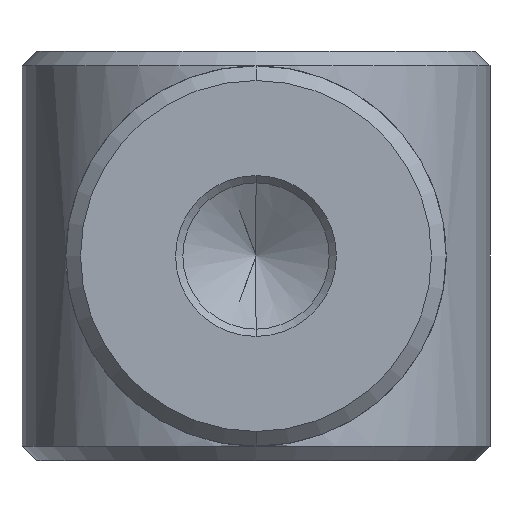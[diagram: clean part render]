
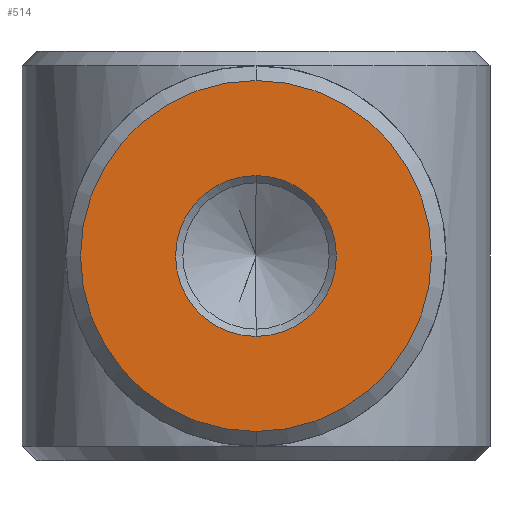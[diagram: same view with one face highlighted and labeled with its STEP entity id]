
A CAD part, front view. The second image highlights one B-rep face of the part: STEP entity #514.
In plain terms, the highlighted planar face has unit normal (0, -1, 0).
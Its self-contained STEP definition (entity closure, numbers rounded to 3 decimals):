
#27 = DIRECTION ( 'NONE',  ( 0., -1., 0. ) ) ;
#58 = ORIENTED_EDGE ( 'NONE', *, *, #613, .T. ) ;
#73 = CARTESIAN_POINT ( 'NONE',  ( 0., 0., 0. ) ) ;
#77 = DIRECTION ( 'NONE',  ( 0., 0., 1. ) ) ;
#78 = VERTEX_POINT ( 'NONE', #372 ) ;
#119 = CARTESIAN_POINT ( 'NONE',  ( 0., 0., 0. ) ) ;
#123 = DIRECTION ( 'NONE',  ( 0., 1., 0. ) ) ;
#127 = CIRCLE ( 'NONE', #546, 2.75 ) ;
#128 = DIRECTION ( 'NONE',  ( 0., -1., 0. ) ) ;
#129 = CIRCLE ( 'NONE', #585, 2.75 ) ;
#139 = DIRECTION ( 'NONE',  ( 0., 0., 1. ) ) ;
#143 = DIRECTION ( 'NONE',  ( 0., 0., -1. ) ) ;
#149 = DIRECTION ( 'NONE',  ( 0., 0., -1. ) ) ;
#176 = CIRCLE ( 'NONE', #564, 6. ) ;
#184 = DIRECTION ( 'NONE',  ( 0., 0., 1. ) ) ;
#240 = CARTESIAN_POINT ( 'NONE',  ( 0., 0., 6. ) ) ;
#261 = CARTESIAN_POINT ( 'NONE',  ( 0., 0., 0. ) ) ;
#294 = CIRCLE ( 'NONE', #607, 6. ) ;
#372 = CARTESIAN_POINT ( 'NONE',  ( 0., 0., -2.75 ) ) ;
#398 = EDGE_LOOP ( 'NONE', ( #58, #666 ) ) ;
#438 = DIRECTION ( 'NONE',  ( 0., -1., 0. ) ) ;
#465 = ORIENTED_EDGE ( 'NONE', *, *, #706, .F. ) ;
#489 = CARTESIAN_POINT ( 'NONE',  ( 0., 0., 2.75 ) ) ;
#496 = CARTESIAN_POINT ( 'NONE',  ( 0., 0., 0. ) ) ;
#499 = VERTEX_POINT ( 'NONE', #489 ) ;
#502 = VERTEX_POINT ( 'NONE', #240 ) ;
#510 = ORIENTED_EDGE ( 'NONE', *, *, #749, .F. ) ;
#514 = ADVANCED_FACE ( 'NONE', ( #629, #777 ), #806, .F. ) ;
#546 = AXIS2_PLACEMENT_3D ( 'NONE', #770, #27, #143 ) ;
#564 = AXIS2_PLACEMENT_3D ( 'NONE', #73, #128, #139 ) ;
#585 = AXIS2_PLACEMENT_3D ( 'NONE', #261, #705, #149 ) ;
#598 = EDGE_CURVE ( 'NONE', #791, #502, #176, .T. ) ;
#607 = AXIS2_PLACEMENT_3D ( 'NONE', #496, #438, #77 ) ;
#613 = EDGE_CURVE ( 'NONE', #502, #791, #294, .T. ) ;
#617 = AXIS2_PLACEMENT_3D ( 'NONE', #119, #123, #184 ) ;
#629 = FACE_OUTER_BOUND ( 'NONE', #398, .T. ) ;
#666 = ORIENTED_EDGE ( 'NONE', *, *, #598, .T. ) ;
#692 = EDGE_LOOP ( 'NONE', ( #465, #510 ) ) ;
#705 = DIRECTION ( 'NONE',  ( 0., -1., 0. ) ) ;
#706 = EDGE_CURVE ( 'NONE', #78, #499, #129, .T. ) ;
#719 = CARTESIAN_POINT ( 'NONE',  ( 0., 0., -6. ) ) ;
#749 = EDGE_CURVE ( 'NONE', #499, #78, #127, .T. ) ;
#770 = CARTESIAN_POINT ( 'NONE',  ( 0., 0., 0. ) ) ;
#777 = FACE_BOUND ( 'NONE', #692, .T. ) ;
#791 = VERTEX_POINT ( 'NONE', #719 ) ;
#806 = PLANE ( 'NONE',  #617 ) ;
